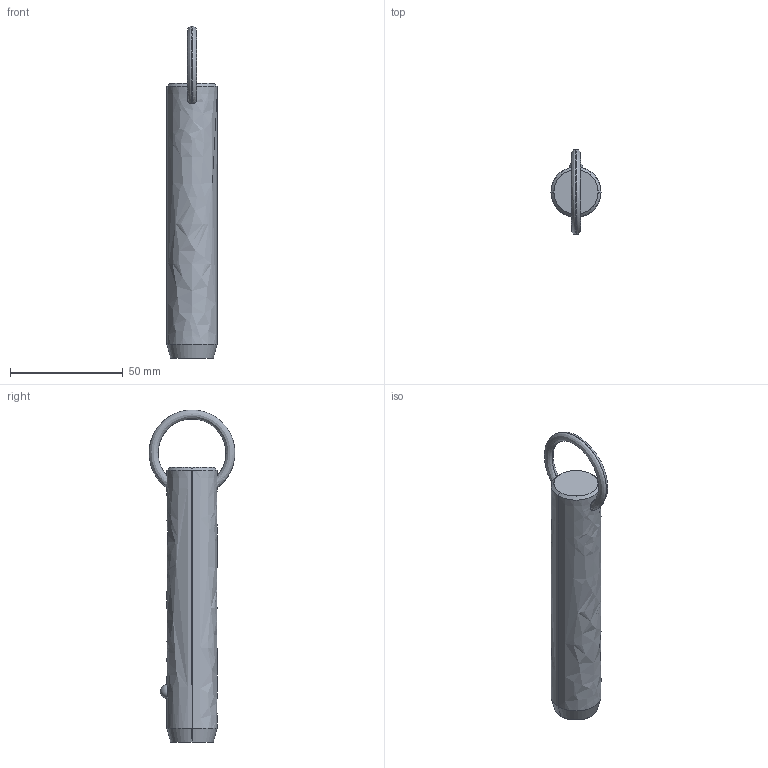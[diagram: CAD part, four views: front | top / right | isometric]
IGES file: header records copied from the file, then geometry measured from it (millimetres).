
Start section: SolidWorks IGES file using analytic representation for surfaces
Global section: file name: C:\Users\liam_\OneDrive\Documents\WORK\Work for WixRoyd\Job Files\J-00019 - Matt Davis CAD Checking\04. CAD Drawings\automotion20190605\P1250.2_v2\P1250.2_v2_20190729_IGES\P1250.087-330.igs; native system: SolidWorks 2017; preprocessor: SolidWorks 2017; author: liam_; date: 190730.000931; units: millimetre
Bounding box: 22.2 x 38.08 x 147.29 mm (x, y, z)
Surface area: 10145.5 mm2 (no closed solid volume)
Topology: 0 solids, 0 shells, 12 faces, 302 edges, 300 vertices
Faces by surface type: revolution 8, bspline 4
